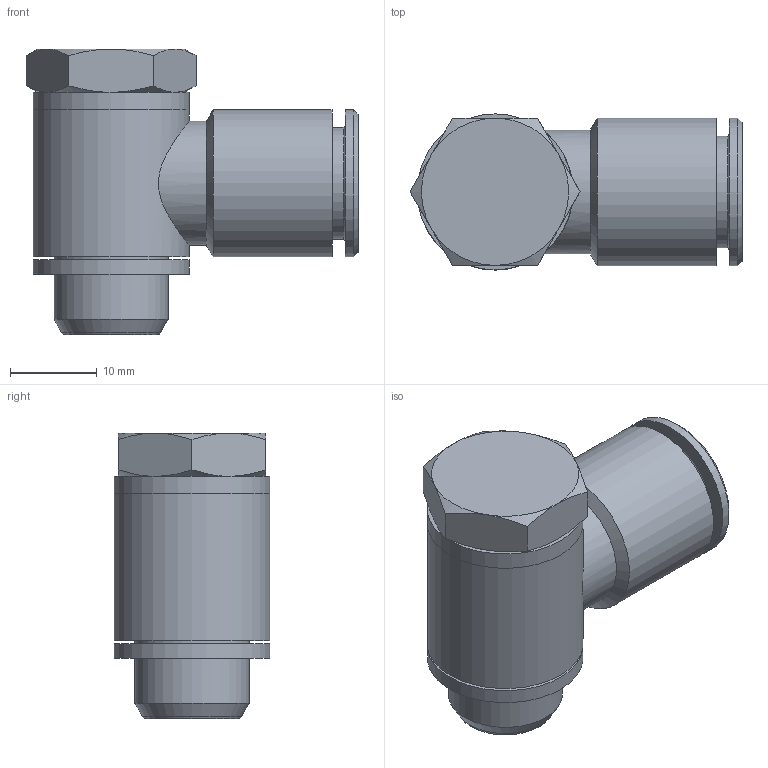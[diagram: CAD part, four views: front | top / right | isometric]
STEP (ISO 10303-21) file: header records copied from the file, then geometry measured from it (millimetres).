
FILE_DESCRIPTION(('Bauteilbeschreibung','HiCAD-Model','HiCAD-STEP-TRANSLATION','Bauteilbeschreibung'),'2;1');
FILE_NAME('B:/ABGLEICH/ZEICHNUNGEN/STEP FÜR INTERNET/STEP/S11214_IPSO_017_12_1-4.STP','2011-08-30T15:17:03+00:00',('Konstrukteur'),('Konstrukteur Firma GmbH'),' HiCAD neXt 2008, Step 3.1.1401.2J ','HiCAD neXt 2008','confidential');
FILE_SCHEMA(('AUTOMOTIVE_DESIGN { 1 2 10303 214 0 1 1 1 }'));
Length unit declared in the file: millimetre
Products named in the file (8): S11214_IPSO_017_12_1_4; A00033; A4403; A44030; G 1_4; A00043_DTG__1_4_UNV ; DR12_5; R201214
Assembly tree (7 placements, depth 3):
  S11214_IPSO_017_12_1_4
    A00033
    A4403
    A44030
      G 1_4
    A00043_DTG__1_4_UNV 
    DR12_5
    R201214
Bounding box: 38.31 x 18 x 33 mm (x, y, z)
Volume: 6859.4 mm3; surface area: 9039.4 mm2
Topology: 6 solids, 6 shells, 101 faces, 220 edges, 136 vertices
Faces by surface type: cone 35, plane 32, cylinder 32, torus 2
Full cylindrical faces by diameter (mm): 5 x2, 6.8 x1, 9 x1, 11 x1, 11.445 x2, 12.15 x1, 12.25 x1, 12.8 x1, 12.9 x1, 13.157 x1, 13.3 x2, 13.4 x1, 13.5 x1, 14 x1, 14.3 x1, 14.5 x1, 14.7 x1, 15.2 x1, 17 x2, 18 x3
Entity records: 6437 total; most frequent: CARTESIAN_POINT 3638, DIRECTION 440, ORIENTED_EDGE 296, AXIS2_PLACEMENT_3D 211, EDGE_LOOP 176, EDGE_CURVE 148, COLOUR_RGB 144, PRESENTATION_STYLE_ASSIGNMENT 144
